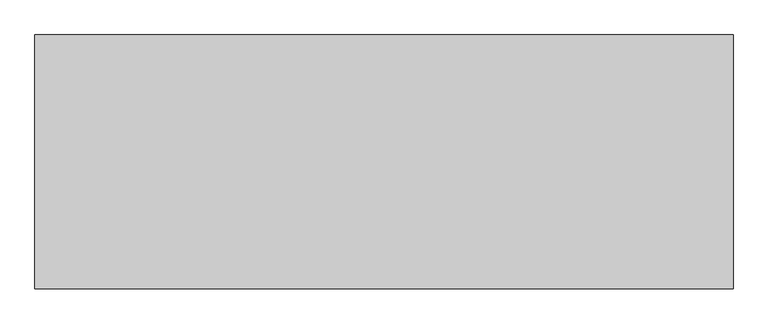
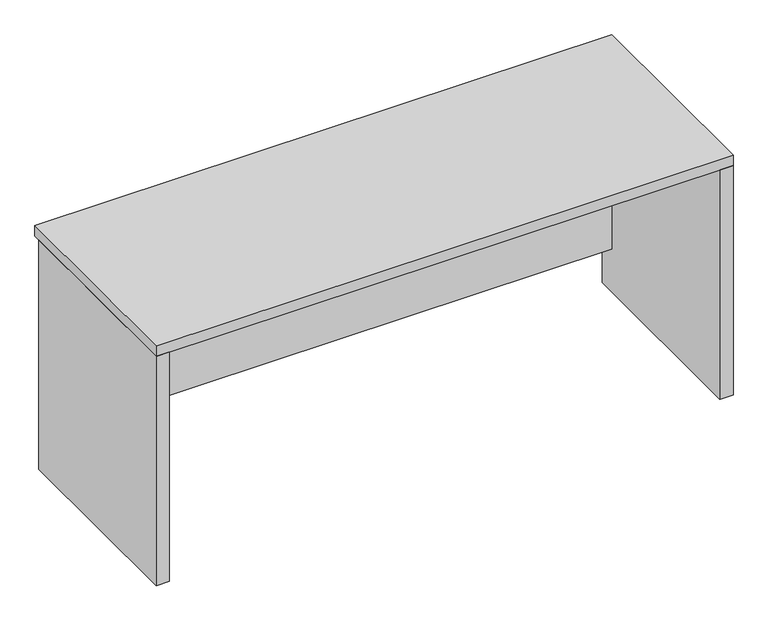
"""IFC4 building model written with IfcOpenShell, lengths in millimetres: furniture geometry, Haworth_XSeries_DeskShell : 24d 66w 29h - 3/4 Modesty Panel."""

from ifc_helpers import new_model, si_unit, frame, origin, origin_with_axes, place, context, project, spatial, polyline, outline, extrude, source, transform, mapped, element, save


def furniture_e20300f5(model_context):
    return source(origin(), model_context, "Body", "SweptSolid", [
        extrude(outline(polyline([(1537.49375, -292.1), (1537.49375, -321.46875), (-61.11875, -321.46875), (-61.11875, -292.1), (1537.49375, -292.1)])), frame((0.0, 0.0, 133.35), z_axis=(0.0, 0.0, 1.0), x_axis=(1.0, 0.0, 0.0)), (0.0, 0.0, 1.0), 508.0),
        extrude(outline(polyline([(1576.3875, -273.05), (1576.3875, -863.6), (1537.49375, -863.6), (1537.49375, -273.05), (1576.3875, -273.05)])), origin_with_axes(), (0.0, 0.0, 1.0), 704.85),
        extrude(outline(polyline([(-61.11875, -273.05), (-61.11875, -863.6), (-100.0125, -863.6), (-100.0125, -273.05), (-61.11875, -273.05)])), origin_with_axes(), (0.0, 0.0, 1.0), 704.85),
        extrude(outline(polyline([(1576.3875, -254.0), (1576.3875, -863.6), (-100.0125, -863.6), (-100.0125, -254.0), (1576.3875, -254.0)])), frame((0.0, 0.0, 704.85), z_axis=(0.0, 0.0, 1.0), x_axis=(1.0, 0.0, 0.0)), (0.0, 0.0, 1.0), 31.75),
    ])


if __name__ == "__main__":
    model = new_model("IFC4")
    model_context = context("Model", 3, world=origin())
    ifc_project = project(units=[si_unit("LENGTHUNIT", "METRE", prefix="MILLI")], contexts=[model_context])
    site = spatial("IfcSite", under=ifc_project)
    building = spatial("IfcBuilding", under=site)
    placement = place(None, origin())
    furniture_shape = furniture_e20300f5(model_context)
    element("IfcFurniture", 1, ObjectType="Haworth_XSeries_DeskShell : 24d 66w 29h - 3/4 Modesty Panel", at=placement, inside=building, context=model_context, shape_type="MappedRepresentation", body=[
        mapped(furniture_shape, transform((0.0, 0.0, 0.0), x_axis=(1.0, 0.0, 0.0), y_axis=(0.0, 1.0, 0.0), z_axis=(0.0, 0.0, 1.0))),
    ])
    save(model, "model.ifc")
